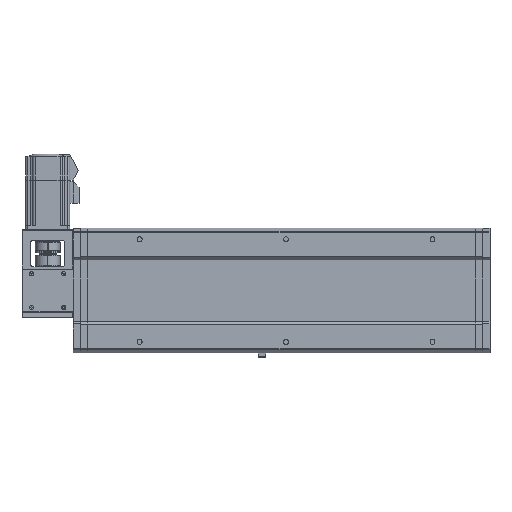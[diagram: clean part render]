
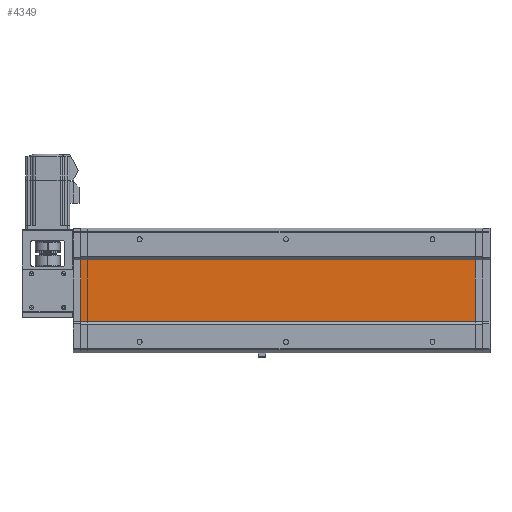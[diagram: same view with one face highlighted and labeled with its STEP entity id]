
A CAD part, front view. The second image highlights one B-rep face of the part: STEP entity #4349.
In plain terms, the highlighted planar face has unit normal (0, -1, 0).
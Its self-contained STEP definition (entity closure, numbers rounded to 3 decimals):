
#399=DIRECTION('',(0.,0.,-1.));
#400=VECTOR('',#399,84.);
#401=CARTESIAN_POINT('',(536.5,4.,42.));
#402=LINE('',#401,#400);
#1115=DIRECTION('',(1.,0.,0.));
#1116=VECTOR('',#1115,549.);
#1117=CARTESIAN_POINT('',(-12.5,4.,-42.));
#1118=LINE('',#1117,#1116);
#1119=DIRECTION('',(1.,0.,0.));
#1120=VECTOR('',#1119,549.);
#1121=CARTESIAN_POINT('',(-12.5,4.,42.));
#1122=LINE('',#1121,#1120);
#1607=DIRECTION('',(0.,0.,-1.));
#1608=VECTOR('',#1607,84.);
#1609=CARTESIAN_POINT('',(-12.5,4.,42.));
#1610=LINE('',#1609,#1608);
#2181=CARTESIAN_POINT('',(-12.5,4.,42.));
#2182=VERTEX_POINT('',#2181);
#2183=CARTESIAN_POINT('',(-12.5,4.,-42.));
#2184=VERTEX_POINT('',#2183);
#2377=CARTESIAN_POINT('',(536.5,4.,42.));
#2378=VERTEX_POINT('',#2377);
#2379=CARTESIAN_POINT('',(536.5,4.,-42.));
#2380=VERTEX_POINT('',#2379);
#4336=CARTESIAN_POINT('',(260.,4.,0.));
#4337=DIRECTION('',(0.,1.,0.));
#4338=DIRECTION('',(0.,0.,1.));
#4339=AXIS2_PLACEMENT_3D('',#4336,#4337,#4338);
#4340=PLANE('',#4339);
#4342=ORIENTED_EDGE('',*,*,#4341,.T.);
#4343=ORIENTED_EDGE('',*,*,#3513,.T.);
#4344=ORIENTED_EDGE('',*,*,#4327,.F.);
#4346=ORIENTED_EDGE('',*,*,#4345,.F.);
#4347=EDGE_LOOP('',(#4342,#4343,#4344,#4346));
#4348=FACE_OUTER_BOUND('',#4347,.F.);
#3513=EDGE_CURVE('',#2378,#2380,#402,.T.);
#4327=EDGE_CURVE('',#2184,#2380,#1118,.T.);
#4341=EDGE_CURVE('',#2182,#2378,#1122,.T.);
#4345=EDGE_CURVE('',#2182,#2184,#1610,.T.);
#4349=ADVANCED_FACE('',(#4348),#4340,.F.);
